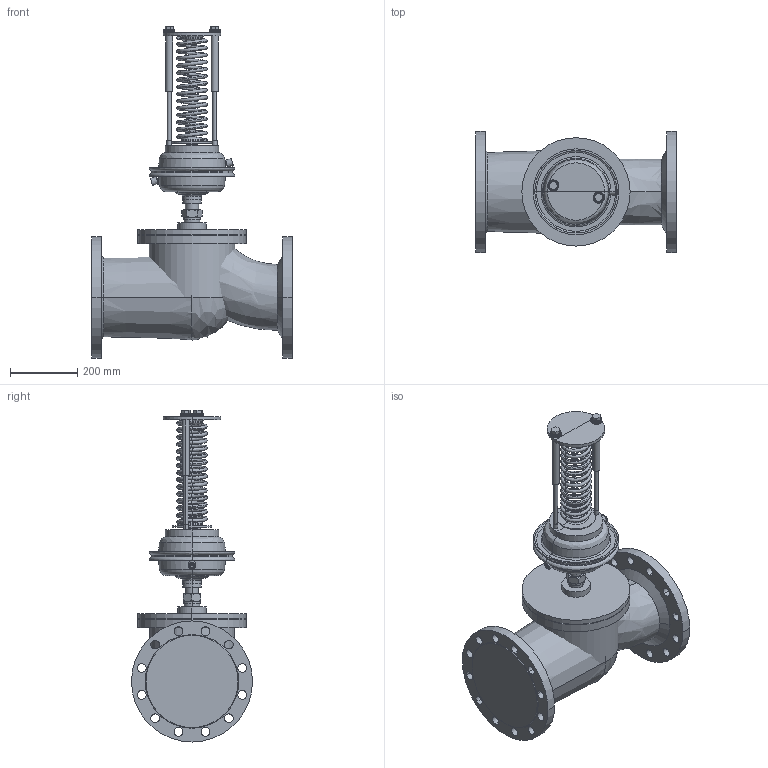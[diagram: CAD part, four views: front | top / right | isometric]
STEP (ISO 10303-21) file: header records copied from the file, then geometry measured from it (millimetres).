
FILE_DESCRIPTION(/* description */ (''),/* implementation_level */ '2;1');
FILE_NAME(/* name */ 'ETM_Регулятордавления_УРРД_НЗ_РД_DN200_PN25 0.01—0.07 МПа',/* time_stamp */ '2026-04-27T12:37:15+03:00',/* author */ (''),/* organization */ (''),/* preprocessor_version */ 'ST-DEVELOPER v20',/* originating_system */ '',/* authorisation */ '');
FILE_SCHEMA (('AP242_MANAGED_MODEL_BASED_3D_ENGINEERING_MIM_LF { 1 0 10303 442 1 1 4 }'));
Length unit declared in the file: millimetre
Products named in the file (13): TopLevelAssembly; Выдавливание; Переход; Выдавливание_
1; Переход_1; Переход_2; Переход_3; Объемная геометрия 
присоединена; Выдавливание_
2; Выдавливание_
3; Объемная геометрия 
присоединена_1; Выдавливание_
4; Пружина желтая
Assembly tree (12 placements, depth 2):
  TopLevelAssembly
    Выдавливание
    Переход
    Выдавливание_
1
    Переход_1
    Переход_2
    Переход_3
    Объемная геометрия 
присоединена
    Выдавливание_
2
    Выдавливание_
3
    Объемная геометрия 
присоединена_1
    Выдавливание_
4
    Пружина желтая
Bounding box: 600 x 360 x 987.11 mm (x, y, z)
Volume: 49275304.3 mm3; surface area: 2620426.5 mm2
Topology: 33 solids, 33 shells, 538 faces, 1126 edges, 592 vertices
Faces by surface type: bspline 191, plane 183, cylinder 154, cone 10
Entity records: 17709 total; most frequent: CARTESIAN_POINT 5999, DIRECTION 2484, ORIENTED_EDGE 2160, EDGE_CURVE 1080, AXIS2_PLACEMENT_3D 1056, CIRCLE 683, VERTEX_POINT 592, EDGE_LOOP 590
